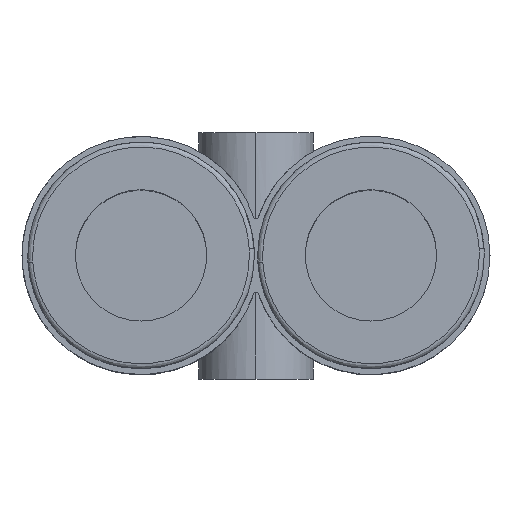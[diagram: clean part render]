
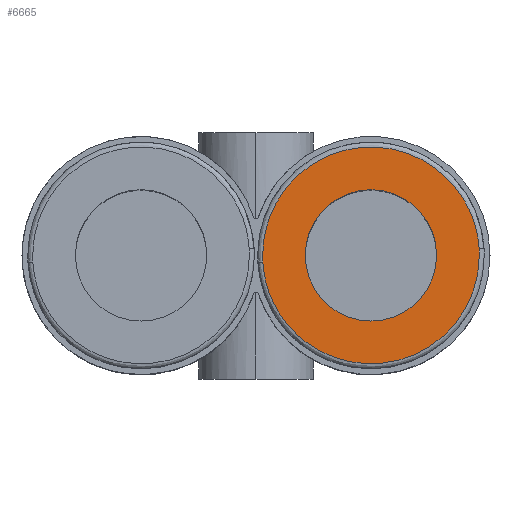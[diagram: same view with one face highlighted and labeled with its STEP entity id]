
A CAD part, top view. The second image highlights one B-rep face of the part: STEP entity #6665.
In plain terms, the highlighted planar face has unit normal (0, 0, 1).
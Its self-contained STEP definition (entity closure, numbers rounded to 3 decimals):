
#113 = CARTESIAN_POINT ( 'NONE',  ( 13.587, 0.408, 21.25 ) ) ;
#221 = VERTEX_POINT ( 'NONE', #616 ) ;
#249 = CARTESIAN_POINT ( 'NONE',  ( 13.587, 0.408, 21.25 ) ) ;
#338 = EDGE_CURVE ( 'NONE', #2044, #5587, #6624, .T. ) ;
#348 = CIRCLE ( 'NONE', #5680, 4. ) ;
#616 = CARTESIAN_POINT ( 'NONE',  ( 13.6, 0., 21.25 ) ) ;
#1021 =( BOUNDED_CURVE ( )  B_SPLINE_CURVE ( 3, ( #1752, #2187, #2799, #113 ),
 .UNSPECIFIED., .F., .T. ) 
 B_SPLINE_CURVE_WITH_KNOTS ( ( 4, 4 ),
 ( 0., 0.98 ),
 .UNSPECIFIED. ) 
 CURVE ( )  GEOMETRIC_REPRESENTATION_ITEM ( )  RATIONAL_B_SPLINE_CURVE ( ( 1., 0.354, 0.354, 1. ) ) 
 REPRESENTATION_ITEM ( '' )  );
#1248 = CARTESIAN_POINT ( 'NONE',  ( 13.6, 0., 21.25 ) ) ;
#1249 = DIRECTION ( 'NONE',  ( 1., 0., 0. ) ) ;
#1278 = CARTESIAN_POINT ( 'NONE',  ( 1.18, -12.81, 21.25 ) ) ;
#1315 = CARTESIAN_POINT ( 'NONE',  ( 0.4, 0., 21.25 ) ) ;
#1443 = ORIENTED_EDGE ( 'NONE', *, *, #1523, .F. ) ;
#1460 = DIRECTION ( 'NONE',  ( 0., 0., -1. ) ) ;
#1523 = EDGE_CURVE ( 'NONE', #221, #5880, #5403, .T. ) ;
#1532 = EDGE_LOOP ( 'NONE', ( #5001, #4681 ) ) ;
#1575 = EDGE_CURVE ( 'NONE', #2386, #1886, #1021, .T. ) ;
#1752 = CARTESIAN_POINT ( 'NONE',  ( 0.4, 0., 21.25 ) ) ;
#1753 = FACE_BOUND ( 'NONE', #1532, .T. ) ;
#1844 = CARTESIAN_POINT ( 'NONE',  ( 0.413, -0.408, 21.25 ) ) ;
#1880 = ORIENTED_EDGE ( 'NONE', *, *, #1575, .F. ) ;
#1886 = VERTEX_POINT ( 'NONE', #4528 ) ;
#1998 = CARTESIAN_POINT ( 'NONE',  ( 7., 0., 21.25 ) ) ;
#2044 = VERTEX_POINT ( 'NONE', #4623 ) ;
#2187 = CARTESIAN_POINT ( 'NONE',  ( 0.4, 12.425, 21.25 ) ) ;
#2223 = CARTESIAN_POINT ( 'NONE',  ( 0.413, -0.408, 21.25 ) ) ;
#2386 = VERTEX_POINT ( 'NONE', #1315 ) ;
#2461 = EDGE_LOOP ( 'NONE', ( #1443, #6496, #1880, #2933 ) ) ;
#2754 = CARTESIAN_POINT ( 'NONE',  ( 13.596, 0.272, 21.25 ) ) ;
#2761 = FACE_OUTER_BOUND ( 'NONE', #2461, .T. ) ;
#2799 = CARTESIAN_POINT ( 'NONE',  ( 12.82, 12.81, 21.25 ) ) ;
#2818 = EDGE_CURVE ( 'NONE', #5880, #2386, #3286, .T. ) ;
#2933 = ORIENTED_EDGE ( 'NONE', *, *, #2818, .F. ) ;
#3286 =( BOUNDED_CURVE ( )  B_SPLINE_CURVE ( 3, ( #4327, #5368, #3917, #6005 ),
 .UNSPECIFIED., .F., .T. ) 
 B_SPLINE_CURVE_WITH_KNOTS ( ( 4, 4 ),
 ( 0.98, 1. ),
 .UNSPECIFIED. ) 
 CURVE ( )  GEOMETRIC_REPRESENTATION_ITEM ( )  RATIONAL_B_SPLINE_CURVE ( ( 1., 1., 1., 1. ) ) 
 REPRESENTATION_ITEM ( '' )  );
#3378 = CARTESIAN_POINT ( 'NONE',  ( 13.6, 0.136, 21.25 ) ) ;
#3833 = CARTESIAN_POINT ( 'NONE',  ( 14.1, 7.1, 21.25 ) ) ;
#3890 = CARTESIAN_POINT ( 'NONE',  ( 13.6, 0., 21.25 ) ) ;
#3917 = CARTESIAN_POINT ( 'NONE',  ( 0.4, -0.136, 21.25 ) ) ;
#4327 = CARTESIAN_POINT ( 'NONE',  ( 0.413, -0.408, 21.25 ) ) ;
#4410 = CARTESIAN_POINT ( 'NONE',  ( 13.6, -12.425, 21.25 ) ) ;
#4436 = AXIS2_PLACEMENT_3D ( 'NONE', #6492, #5440, #6457 ) ;
#4528 = CARTESIAN_POINT ( 'NONE',  ( 13.587, 0.408, 21.25 ) ) ;
#4623 = CARTESIAN_POINT ( 'NONE',  ( 3., 0., 21.25 ) ) ;
#4681 = ORIENTED_EDGE ( 'NONE', *, *, #6700, .T. ) ;
#5001 = ORIENTED_EDGE ( 'NONE', *, *, #338, .T. ) ;
#5368 = CARTESIAN_POINT ( 'NONE',  ( 0.404, -0.272, 21.25 ) ) ;
#5403 =( BOUNDED_CURVE ( )  B_SPLINE_CURVE ( 3, ( #1248, #4410, #1278, #2223 ),
 .UNSPECIFIED., .F., .T. ) 
 B_SPLINE_CURVE_WITH_KNOTS ( ( 4, 4 ),
 ( 0., 0.98 ),
 .UNSPECIFIED. ) 
 CURVE ( )  GEOMETRIC_REPRESENTATION_ITEM ( )  RATIONAL_B_SPLINE_CURVE ( ( 1., 0.354, 0.354, 1. ) ) 
 REPRESENTATION_ITEM ( '' )  );
#5440 = DIRECTION ( 'NONE',  ( 0., 0., -1. ) ) ;
#5587 = VERTEX_POINT ( 'NONE', #6249 ) ;
#5647 =( BOUNDED_CURVE ( )  B_SPLINE_CURVE ( 3, ( #249, #2754, #3378, #3890 ),
 .UNSPECIFIED., .F., .T. ) 
 B_SPLINE_CURVE_WITH_KNOTS ( ( 4, 4 ),
 ( 0.98, 1. ),
 .UNSPECIFIED. ) 
 CURVE ( )  GEOMETRIC_REPRESENTATION_ITEM ( )  RATIONAL_B_SPLINE_CURVE ( ( 1., 1., 1., 1. ) ) 
 REPRESENTATION_ITEM ( '' )  );
#5680 = AXIS2_PLACEMENT_3D ( 'NONE', #1998, #1460, #6170 ) ;
#5880 = VERTEX_POINT ( 'NONE', #1844 ) ;
#5917 = EDGE_CURVE ( 'NONE', #1886, #221, #5647, .T. ) ;
#5922 = DIRECTION ( 'NONE',  ( 0., 0., 1. ) ) ;
#6005 = CARTESIAN_POINT ( 'NONE',  ( 0.4, 0., 21.25 ) ) ;
#6170 = DIRECTION ( 'NONE',  ( -1., 0., 0. ) ) ;
#6217 = AXIS2_PLACEMENT_3D ( 'NONE', #3833, #5922, #1249 ) ;
#6249 = CARTESIAN_POINT ( 'NONE',  ( 11., 0., 21.25 ) ) ;
#6433 = PLANE ( 'NONE',  #6217 ) ;
#6457 = DIRECTION ( 'NONE',  ( -1., 0., 0. ) ) ;
#6492 = CARTESIAN_POINT ( 'NONE',  ( 7., 0., 21.25 ) ) ;
#6496 = ORIENTED_EDGE ( 'NONE', *, *, #5917, .F. ) ;
#6624 = CIRCLE ( 'NONE', #4436, 4. ) ;
#6665 = ADVANCED_FACE ( '107', ( #1753, #2761 ), #6433, .T. ) ;
#6700 = EDGE_CURVE ( 'NONE', #5587, #2044, #348, .T. ) ;
